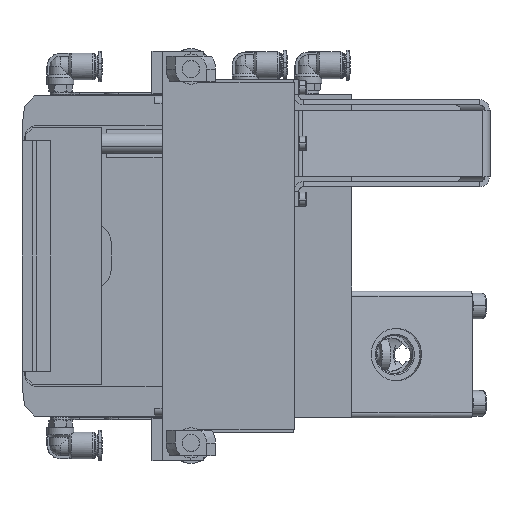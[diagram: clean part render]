
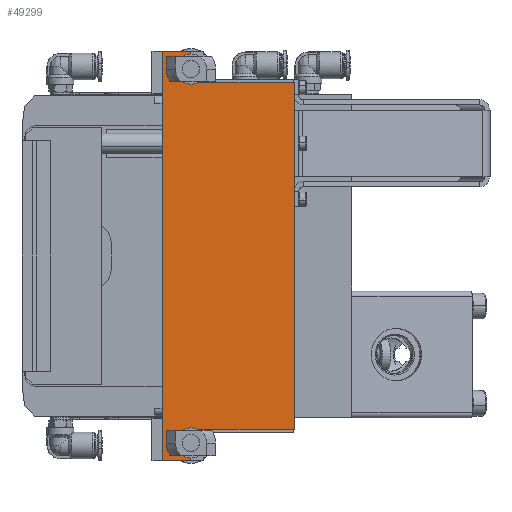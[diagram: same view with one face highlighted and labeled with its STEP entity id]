
A CAD part, left-side view. The second image highlights one B-rep face of the part: STEP entity #49299.
In plain terms, the highlighted planar face has unit normal (-1, 0, 0).
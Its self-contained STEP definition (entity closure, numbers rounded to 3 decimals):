
#677 = ORIENTED_EDGE ( 'NONE', *, *, #35303, .T. ) ;
#794 = LINE ( 'NONE', #31466, #22185 ) ;
#809 = EDGE_CURVE ( 'NONE', #50318, #2110, #21783, .T. ) ;
#1095 = CARTESIAN_POINT ( 'NONE',  ( 0., 11.2, -80. ) ) ;
#1545 = AXIS2_PLACEMENT_3D ( 'NONE', #44651, #8621, #36744 ) ;
#1772 = LINE ( 'NONE', #2293, #43301 ) ;
#2110 = VERTEX_POINT ( 'NONE', #43412 ) ;
#2130 = CARTESIAN_POINT ( 'NONE',  ( 0., -40.3, -67.9 ) ) ;
#2293 = CARTESIAN_POINT ( 'NONE',  ( 0., 11.2, 80. ) ) ;
#2793 = LINE ( 'NONE', #41931, #25440 ) ;
#3162 = DIRECTION ( 'NONE',  ( 0., 1., 0. ) ) ;
#3922 = ORIENTED_EDGE ( 'NONE', *, *, #27650, .T. ) ;
#4586 = PLANE ( 'NONE',  #1545 ) ;
#6542 = EDGE_CURVE ( 'NONE', #43919, #39489, #1772, .T. ) ;
#7388 = EDGE_CURVE ( 'NONE', #19276, #25514, #41315, .T. ) ;
#7454 = ORIENTED_EDGE ( 'NONE', *, *, #49574, .T. ) ;
#7619 = LINE ( 'NONE', #13900, #19600 ) ;
#7986 = CARTESIAN_POINT ( 'NONE',  ( 0., -40.3, -67.9 ) ) ;
#8621 = DIRECTION ( 'NONE',  ( -1., 0., 0. ) ) ;
#9227 = VECTOR ( 'NONE', #12055, 1000. ) ;
#9754 = DIRECTION ( 'NONE',  ( 0., -1., 0. ) ) ;
#9807 = DIRECTION ( 'NONE',  ( 1., 0., 0. ) ) ;
#9814 = CARTESIAN_POINT ( 'NONE',  ( 0., 0., -80. ) ) ;
#11090 = ORIENTED_EDGE ( 'NONE', *, *, #39443, .F. ) ;
#11852 = LINE ( 'NONE', #1095, #22522 ) ;
#12055 = DIRECTION ( 'NONE',  ( 0., -1., 0. ) ) ;
#13900 = CARTESIAN_POINT ( 'NONE',  ( 0., 0., 80. ) ) ;
#14510 = CARTESIAN_POINT ( 'NONE',  ( 0., 11.2, -80. ) ) ;
#15195 = ORIENTED_EDGE ( 'NONE', *, *, #23178, .F. ) ;
#17920 = AXIS2_PLACEMENT_3D ( 'NONE', #20406, #48516, #24433 ) ;
#17944 = DIRECTION ( 'NONE',  ( 0., 0., 1. ) ) ;
#18493 = DIRECTION ( 'NONE',  ( 0., 0., 1. ) ) ;
#19276 = VERTEX_POINT ( 'NONE', #20156 ) ;
#19600 = VECTOR ( 'NONE', #17944, 1000. ) ;
#20156 = CARTESIAN_POINT ( 'NONE',  ( 0., 0., -67.9 ) ) ;
#20406 = CARTESIAN_POINT ( 'NONE',  ( 0., 0., 73. ) ) ;
#20829 = ORIENTED_EDGE ( 'NONE', *, *, #7388, .T. ) ;
#21783 = CIRCLE ( 'NONE', #17920, 5.1 ) ;
#22185 = VECTOR ( 'NONE', #3162, 1000. ) ;
#22522 = VECTOR ( 'NONE', #45205, 1000. ) ;
#22582 = CARTESIAN_POINT ( 'NONE',  ( 0., 0., -78.1 ) ) ;
#23004 = EDGE_CURVE ( 'NONE', #37913, #51446, #28848, .T. ) ;
#23178 = EDGE_CURVE ( 'NONE', #37913, #43919, #11852, .T. ) ;
#23965 = DIRECTION ( 'NONE',  ( 0., 0., -1. ) ) ;
#24433 = DIRECTION ( 'NONE',  ( 0., 0., -1. ) ) ;
#25200 = CARTESIAN_POINT ( 'NONE',  ( 0., 11.2, 80. ) ) ;
#25440 = VECTOR ( 'NONE', #9754, 1000. ) ;
#25514 = VERTEX_POINT ( 'NONE', #2130 ) ;
#26997 = VECTOR ( 'NONE', #23965, 1000. ) ;
#27209 = EDGE_LOOP ( 'NONE', ( #20829, #11090, #7454, #36186, #3922, #48446, #50451, #15195, #48126, #677 ) ) ;
#27650 = EDGE_CURVE ( 'NONE', #2110, #47439, #7619, .T. ) ;
#28848 = LINE ( 'NONE', #36081, #48952 ) ;
#29789 = CIRCLE ( 'NONE', #49518, 5.1 ) ;
#30567 = VERTEX_POINT ( 'NONE', #34294 ) ;
#30938 = CARTESIAN_POINT ( 'NONE',  ( 0., 0., 80. ) ) ;
#31466 = CARTESIAN_POINT ( 'NONE',  ( 0., -40.3, 67.9 ) ) ;
#32111 = EDGE_CURVE ( 'NONE', #39489, #47439, #2793, .T. ) ;
#33902 = CARTESIAN_POINT ( 'NONE',  ( 0., 0., -73. ) ) ;
#34294 = CARTESIAN_POINT ( 'NONE',  ( 0., -40.3, 67.9 ) ) ;
#35303 = EDGE_CURVE ( 'NONE', #51446, #19276, #29789, .T. ) ;
#36081 = CARTESIAN_POINT ( 'NONE',  ( 0., 0., -80. ) ) ;
#36186 = ORIENTED_EDGE ( 'NONE', *, *, #809, .T. ) ;
#36744 = DIRECTION ( 'NONE',  ( 0., 0., 1. ) ) ;
#37913 = VERTEX_POINT ( 'NONE', #9814 ) ;
#37917 = DIRECTION ( 'NONE',  ( 0., 0., -1. ) ) ;
#39443 = EDGE_CURVE ( 'NONE', #30567, #25514, #48329, .T. ) ;
#39489 = VERTEX_POINT ( 'NONE', #25200 ) ;
#40152 = DIRECTION ( 'NONE',  ( 0., 0., 1. ) ) ;
#40679 = CARTESIAN_POINT ( 'NONE',  ( 0., -40.3, -80. ) ) ;
#41315 = LINE ( 'NONE', #7986, #9227 ) ;
#41931 = CARTESIAN_POINT ( 'NONE',  ( 0., -40.3, 80. ) ) ;
#43301 = VECTOR ( 'NONE', #18493, 1000. ) ;
#43412 = CARTESIAN_POINT ( 'NONE',  ( 0., 0., 78.1 ) ) ;
#43919 = VERTEX_POINT ( 'NONE', #14510 ) ;
#44651 = CARTESIAN_POINT ( 'NONE',  ( 0., -40.3, 80. ) ) ;
#45205 = DIRECTION ( 'NONE',  ( 0., 1., 0. ) ) ;
#47439 = VERTEX_POINT ( 'NONE', #30938 ) ;
#48126 = ORIENTED_EDGE ( 'NONE', *, *, #23004, .T. ) ;
#48329 = LINE ( 'NONE', #40679, #26997 ) ;
#48446 = ORIENTED_EDGE ( 'NONE', *, *, #32111, .F. ) ;
#48516 = DIRECTION ( 'NONE',  ( 1., 0., 0. ) ) ;
#48952 = VECTOR ( 'NONE', #40152, 1000. ) ;
#49299 = ADVANCED_FACE ( 'NONE', ( #51160 ), #4586, .T. ) ;
#49518 = AXIS2_PLACEMENT_3D ( 'NONE', #33902, #9807, #37917 ) ;
#49574 = EDGE_CURVE ( 'NONE', #30567, #50318, #794, .T. ) ;
#49657 = CARTESIAN_POINT ( 'NONE',  ( 0., 0., 67.9 ) ) ;
#50318 = VERTEX_POINT ( 'NONE', #49657 ) ;
#50451 = ORIENTED_EDGE ( 'NONE', *, *, #6542, .F. ) ;
#51160 = FACE_OUTER_BOUND ( 'NONE', #27209, .T. ) ;
#51446 = VERTEX_POINT ( 'NONE', #22582 ) ;
